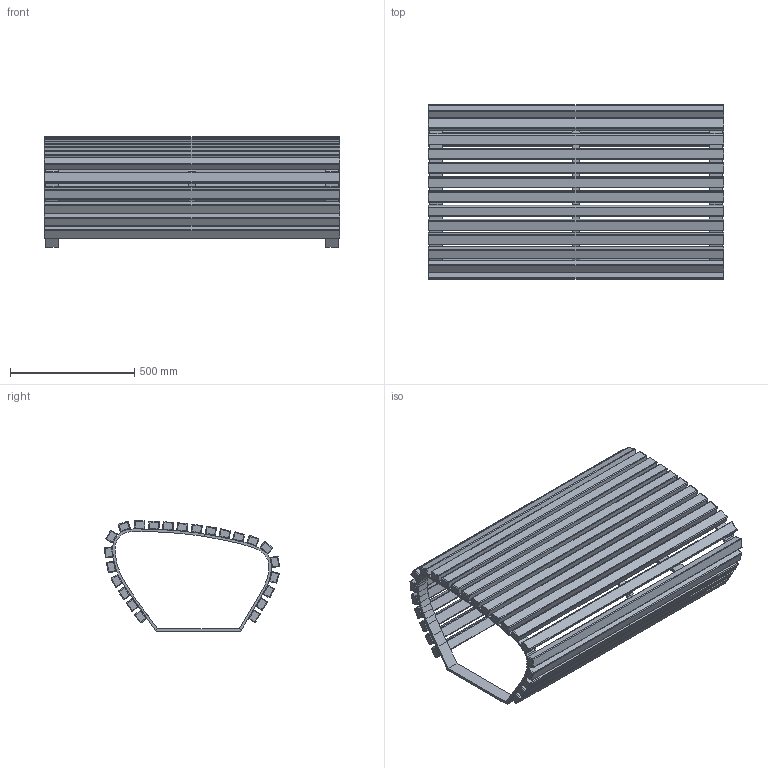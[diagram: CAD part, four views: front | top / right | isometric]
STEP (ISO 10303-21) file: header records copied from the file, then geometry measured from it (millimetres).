
FILE_DESCRIPTION(/* description */ (''),/* implementation_level */ '2;1');
FILE_NAME(/* name */ 'ENV02-B2_UAP_ENVIRON_Bench_3D',/* time_stamp */ '2018-01-23T20:42:00-05:00',/* author */ (''),/* organization */ (''),/* preprocessor_version */ 'ST-DEVELOPER v15',/* originating_system */ '',/* authorisation */ '');
FILE_SCHEMA (('AUTOMOTIVE_DESIGN'));
Length unit declared in the file: millimetre
Products named in the file (1): Document
Bounding box: 1190 x 704.29 x 443.81 mm (x, y, z)
Volume: 38805312.7 mm3; surface area: 4517281.7 mm2
Topology: 31 solids, 31 shells, 970 faces, 2356 edges, 1264 vertices
Faces by surface type: plane 492, bspline 478
Entity records: 24374 total; most frequent: CARTESIAN_POINT 10206, ORIENTED_EDGE 4344, EDGE_CURVE 2172, B_SPLINE_CURVE_WITH_KNOTS 1620, VERTEX_POINT 1264, ADVANCED_FACE 970, FACE_OUTER_BOUND 970, EDGE_LOOP 970
